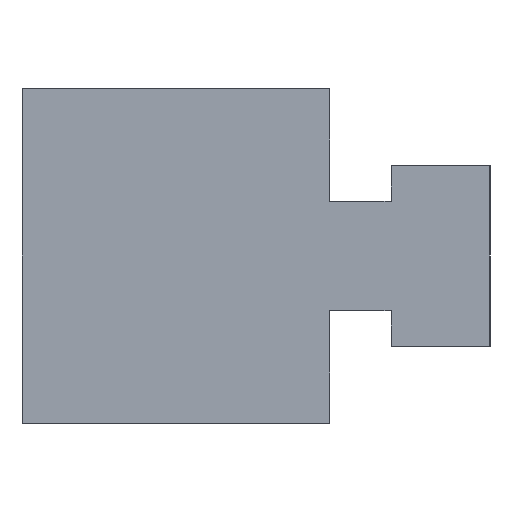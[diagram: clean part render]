
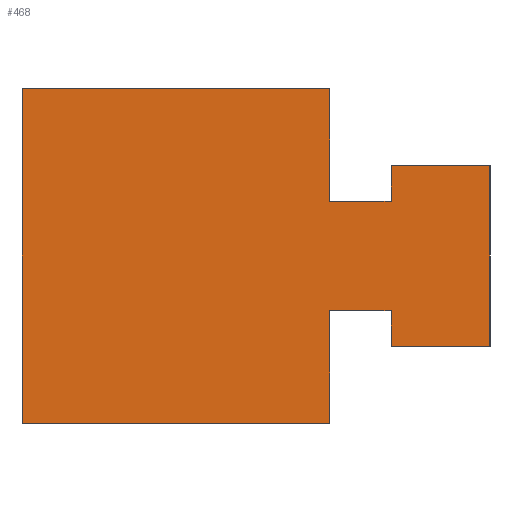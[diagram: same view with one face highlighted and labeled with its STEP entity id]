
A CAD part, left-side view. The second image highlights one B-rep face of the part: STEP entity #468.
In plain terms, the highlighted planar face has unit normal (-1, 0, 0).
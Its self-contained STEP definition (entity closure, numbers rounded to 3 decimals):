
#4 = ORIENTED_EDGE ( 'NONE', *, *, #642, .F. ) ;
#8 = VERTEX_POINT ( 'NONE', #398 ) ;
#26 = DIRECTION ( 'NONE',  ( 0., 0., 1. ) ) ;
#32 = CARTESIAN_POINT ( 'NONE',  ( 0., -5.697, -4.428 ) ) ;
#41 = EDGE_CURVE ( 'NONE', #237, #658, #78, .T. ) ;
#46 = VECTOR ( 'NONE', #177, 1000. ) ;
#52 = VERTEX_POINT ( 'NONE', #595 ) ;
#69 = ORIENTED_EDGE ( 'NONE', *, *, #248, .F. ) ;
#75 = ORIENTED_EDGE ( 'NONE', *, *, #94, .F. ) ;
#78 = LINE ( 'NONE', #412, #604 ) ;
#82 = CARTESIAN_POINT ( 'NONE',  ( 0., -10.297, -4.428 ) ) ;
#90 = DIRECTION ( 'NONE',  ( 0., 1., 0. ) ) ;
#94 = EDGE_CURVE ( 'NONE', #165, #479, #606, .T. ) ;
#112 = CARTESIAN_POINT ( 'NONE',  ( 0., -17.697, -7.078 ) ) ;
#117 = VECTOR ( 'NONE', #121, 1000. ) ;
#121 = DIRECTION ( 'NONE',  ( 0., 0., -1. ) ) ;
#124 = EDGE_CURVE ( 'NONE', #589, #155, #449, .T. ) ;
#136 = LINE ( 'NONE', #183, #176 ) ;
#143 = VECTOR ( 'NONE', #90, 1000. ) ;
#155 = VERTEX_POINT ( 'NONE', #366 ) ;
#158 = EDGE_CURVE ( 'NONE', #359, #589, #168, .T. ) ;
#165 = VERTEX_POINT ( 'NONE', #574 ) ;
#168 = LINE ( 'NONE', #371, #347 ) ;
#176 = VECTOR ( 'NONE', #26, 1000. ) ;
#177 = DIRECTION ( 'NONE',  ( 0., 0., -1. ) ) ;
#178 = LINE ( 'NONE', #82, #265 ) ;
#181 = PLANE ( 'NONE',  #251 ) ;
#183 = CARTESIAN_POINT ( 'NONE',  ( 0., 17.303, -12.828 ) ) ;
#186 = DIRECTION ( 'NONE',  ( 1., 0., 0. ) ) ;
#196 = DIRECTION ( 'NONE',  ( 0., 0., -1. ) ) ;
#197 = VECTOR ( 'NONE', #344, 1000. ) ;
#226 = CARTESIAN_POINT ( 'NONE',  ( 0., -5.697, 3.772 ) ) ;
#231 = LINE ( 'NONE', #291, #323 ) ;
#232 = DIRECTION ( 'NONE',  ( 0., -1., 0. ) ) ;
#237 = VERTEX_POINT ( 'NONE', #32 ) ;
#248 = EDGE_CURVE ( 'NONE', #637, #284, #437, .T. ) ;
#249 = VECTOR ( 'NONE', #351, 1000. ) ;
#251 = AXIS2_PLACEMENT_3D ( 'NONE', #275, #186, #288 ) ;
#253 = ORIENTED_EDGE ( 'NONE', *, *, #41, .F. ) ;
#263 = EDGE_CURVE ( 'NONE', #155, #237, #178, .T. ) ;
#264 = DIRECTION ( 'NONE',  ( 0., 1., 0. ) ) ;
#265 = VECTOR ( 'NONE', #539, 1000. ) ;
#270 = ORIENTED_EDGE ( 'NONE', *, *, #289, .F. ) ;
#275 = CARTESIAN_POINT ( 'NONE',  ( 0., 0., 0. ) ) ;
#284 = VERTEX_POINT ( 'NONE', #337 ) ;
#288 = DIRECTION ( 'NONE',  ( 0., 0., -1. ) ) ;
#289 = EDGE_CURVE ( 'NONE', #284, #8, #231, .T. ) ;
#291 = CARTESIAN_POINT ( 'NONE',  ( 0., -10.297, 3.772 ) ) ;
#305 = VECTOR ( 'NONE', #232, 1000. ) ;
#323 = VECTOR ( 'NONE', #434, 1000. ) ;
#325 = ORIENTED_EDGE ( 'NONE', *, *, #562, .F. ) ;
#329 = EDGE_CURVE ( 'NONE', #658, #52, #455, .T. ) ;
#333 = ORIENTED_EDGE ( 'NONE', *, *, #485, .F. ) ;
#336 = CARTESIAN_POINT ( 'NONE',  ( 0., -5.697, 12.172 ) ) ;
#337 = CARTESIAN_POINT ( 'NONE',  ( 0., -10.297, 3.772 ) ) ;
#340 = CARTESIAN_POINT ( 'NONE',  ( 0., -10.297, -7.078 ) ) ;
#344 = DIRECTION ( 'NONE',  ( 0., -1., 0. ) ) ;
#347 = VECTOR ( 'NONE', #264, 1000. ) ;
#351 = DIRECTION ( 'NONE',  ( 0., -1., 0. ) ) ;
#352 = CARTESIAN_POINT ( 'NONE',  ( 0., -5.697, -12.828 ) ) ;
#356 = VECTOR ( 'NONE', #540, 1000. ) ;
#359 = VERTEX_POINT ( 'NONE', #112 ) ;
#366 = CARTESIAN_POINT ( 'NONE',  ( 0., -10.297, -4.428 ) ) ;
#371 = CARTESIAN_POINT ( 'NONE',  ( 0., -17.697, -7.078 ) ) ;
#385 = CARTESIAN_POINT ( 'NONE',  ( 0., -5.697, 12.172 ) ) ;
#386 = ORIENTED_EDGE ( 'NONE', *, *, #124, .F. ) ;
#389 = LINE ( 'NONE', #644, #46 ) ;
#398 = CARTESIAN_POINT ( 'NONE',  ( 0., -10.297, 6.422 ) ) ;
#409 = EDGE_LOOP ( 'NONE', ( #253, #477, #386, #514, #333, #4, #270, #69, #325, #75, #532, #414 ) ) ;
#412 = CARTESIAN_POINT ( 'NONE',  ( 0., -5.697, -4.428 ) ) ;
#414 = ORIENTED_EDGE ( 'NONE', *, *, #329, .F. ) ;
#430 = LINE ( 'NONE', #448, #305 ) ;
#434 = DIRECTION ( 'NONE',  ( 0., 0., 1. ) ) ;
#437 = LINE ( 'NONE', #226, #197 ) ;
#448 = CARTESIAN_POINT ( 'NONE',  ( 0., -10.297, 6.422 ) ) ;
#449 = LINE ( 'NONE', #340, #356 ) ;
#455 = LINE ( 'NONE', #352, #143 ) ;
#468 = ADVANCED_FACE ( 'NONE', ( #491 ), #181, .F. ) ;
#477 = ORIENTED_EDGE ( 'NONE', *, *, #263, .F. ) ;
#479 = VERTEX_POINT ( 'NONE', #336 ) ;
#484 = CARTESIAN_POINT ( 'NONE',  ( 0., -5.697, 3.772 ) ) ;
#485 = EDGE_CURVE ( 'NONE', #560, #359, #389, .T. ) ;
#491 = FACE_OUTER_BOUND ( 'NONE', #409, .T. ) ;
#496 = CARTESIAN_POINT ( 'NONE',  ( 0., 17.303, 12.172 ) ) ;
#514 = ORIENTED_EDGE ( 'NONE', *, *, #158, .F. ) ;
#532 = ORIENTED_EDGE ( 'NONE', *, *, #609, .F. ) ;
#539 = DIRECTION ( 'NONE',  ( 0., 1., 0. ) ) ;
#540 = DIRECTION ( 'NONE',  ( 0., 0., 1. ) ) ;
#549 = CARTESIAN_POINT ( 'NONE',  ( 0., -17.697, 6.422 ) ) ;
#551 = CARTESIAN_POINT ( 'NONE',  ( 0., -5.697, -12.828 ) ) ;
#560 = VERTEX_POINT ( 'NONE', #549 ) ;
#562 = EDGE_CURVE ( 'NONE', #479, #637, #588, .T. ) ;
#574 = CARTESIAN_POINT ( 'NONE',  ( 0., 17.303, 12.172 ) ) ;
#588 = LINE ( 'NONE', #385, #117 ) ;
#589 = VERTEX_POINT ( 'NONE', #601 ) ;
#595 = CARTESIAN_POINT ( 'NONE',  ( 0., 17.303, -12.828 ) ) ;
#601 = CARTESIAN_POINT ( 'NONE',  ( 0., -10.297, -7.078 ) ) ;
#604 = VECTOR ( 'NONE', #196, 1000. ) ;
#606 = LINE ( 'NONE', #496, #249 ) ;
#609 = EDGE_CURVE ( 'NONE', #52, #165, #136, .T. ) ;
#637 = VERTEX_POINT ( 'NONE', #484 ) ;
#642 = EDGE_CURVE ( 'NONE', #8, #560, #430, .T. ) ;
#644 = CARTESIAN_POINT ( 'NONE',  ( 0., -17.697, 6.422 ) ) ;
#658 = VERTEX_POINT ( 'NONE', #551 ) ;
